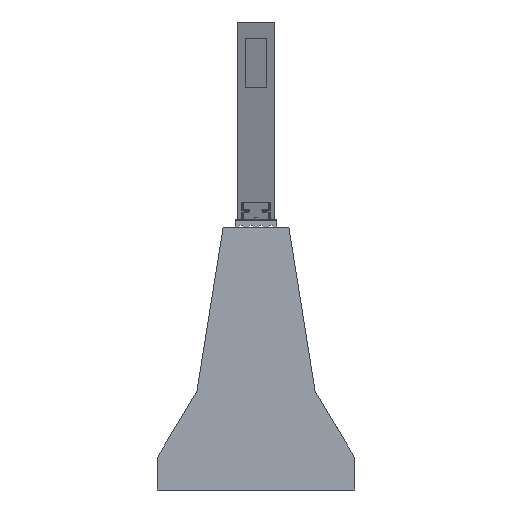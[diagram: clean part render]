
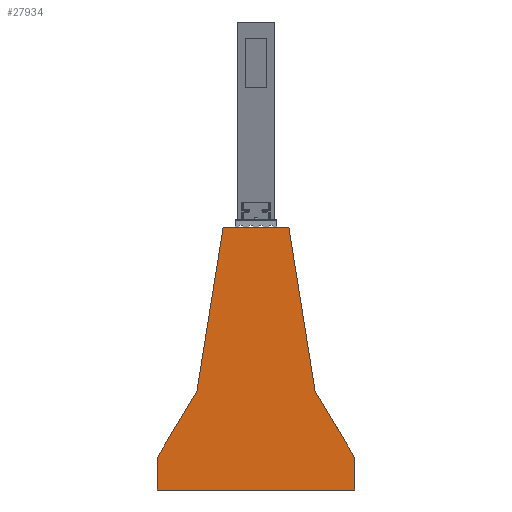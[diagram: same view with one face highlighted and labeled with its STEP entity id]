
A CAD part, left-side view. The second image highlights one B-rep face of the part: STEP entity #27934.
In plain terms, the highlighted planar face has unit normal (-1, 0, 0).
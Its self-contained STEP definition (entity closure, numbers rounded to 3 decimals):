
#27837 = VERTEX_POINT('',#27838);
#27838 = CARTESIAN_POINT('',(0.,-300.,0.));
#27855 = VERTEX_POINT('',#27856);
#27856 = CARTESIAN_POINT('',(0.,300.,0.));
#27862 = EDGE_CURVE('',#27837,#27855,#27863,.T.);
#27863 = LINE('',#27864,#27865);
#27864 = CARTESIAN_POINT('',(0.,-300.,0.));
#27865 = VECTOR('',#27866,1.);
#27866 = DIRECTION('',(0.,1.,0.));
#27877 = VERTEX_POINT('',#27878);
#27878 = CARTESIAN_POINT('',(0.,-300.,100.));
#27893 = EDGE_CURVE('',#27877,#27837,#27894,.T.);
#27894 = LINE('',#27895,#27896);
#27895 = CARTESIAN_POINT('',(0.,-300.,100.));
#27896 = VECTOR('',#27897,1.);
#27897 = DIRECTION('',(0.,0.,-1.));
#27917 = VERTEX_POINT('',#27918);
#27918 = CARTESIAN_POINT('',(0.,300.,100.));
#27924 = EDGE_CURVE('',#27855,#27917,#27925,.T.);
#27925 = LINE('',#27926,#27927);
#27926 = CARTESIAN_POINT('',(0.,300.,0.));
#27927 = VECTOR('',#27928,1.);
#27928 = DIRECTION('',(0.,0.,1.));
#27934 = ADVANCED_FACE('',(#27935),#27978,.F.);
#27935 = FACE_BOUND('',#27936,.F.);
#27936 = EDGE_LOOP('',(#27937,#27938,#27939,#27947,#27955,#27963,#27971,
    #27977));
#27937 = ORIENTED_EDGE('',*,*,#27862,.T.);
#27938 = ORIENTED_EDGE('',*,*,#27924,.T.);
#27939 = ORIENTED_EDGE('',*,*,#27940,.T.);
#27940 = EDGE_CURVE('',#27917,#27941,#27943,.T.);
#27941 = VERTEX_POINT('',#27942);
#27942 = CARTESIAN_POINT('',(0.,180.,300.));
#27943 = LINE('',#27944,#27945);
#27944 = CARTESIAN_POINT('',(0.,300.,100.));
#27945 = VECTOR('',#27946,1.);
#27946 = DIRECTION('',(0.,-0.514,0.857));
#27947 = ORIENTED_EDGE('',*,*,#27948,.T.);
#27948 = EDGE_CURVE('',#27941,#27949,#27951,.T.);
#27949 = VERTEX_POINT('',#27950);
#27950 = CARTESIAN_POINT('',(0.,100.,800.));
#27951 = LINE('',#27952,#27953);
#27952 = CARTESIAN_POINT('',(0.,180.,300.));
#27953 = VECTOR('',#27954,1.);
#27954 = DIRECTION('',(0.,-0.158,0.987));
#27955 = ORIENTED_EDGE('',*,*,#27956,.T.);
#27956 = EDGE_CURVE('',#27949,#27957,#27959,.T.);
#27957 = VERTEX_POINT('',#27958);
#27958 = CARTESIAN_POINT('',(0.,-100.,800.));
#27959 = LINE('',#27960,#27961);
#27960 = CARTESIAN_POINT('',(0.,100.,800.));
#27961 = VECTOR('',#27962,1.);
#27962 = DIRECTION('',(0.,-1.,0.));
#27963 = ORIENTED_EDGE('',*,*,#27964,.T.);
#27964 = EDGE_CURVE('',#27957,#27965,#27967,.T.);
#27965 = VERTEX_POINT('',#27966);
#27966 = CARTESIAN_POINT('',(0.,-180.,300.));
#27967 = LINE('',#27968,#27969);
#27968 = CARTESIAN_POINT('',(0.,-100.,800.));
#27969 = VECTOR('',#27970,1.);
#27970 = DIRECTION('',(0.,-0.158,-0.987));
#27971 = ORIENTED_EDGE('',*,*,#27972,.T.);
#27972 = EDGE_CURVE('',#27965,#27877,#27973,.T.);
#27973 = LINE('',#27974,#27975);
#27974 = CARTESIAN_POINT('',(0.,-180.,300.));
#27975 = VECTOR('',#27976,1.);
#27976 = DIRECTION('',(0.,-0.514,-0.857));
#27977 = ORIENTED_EDGE('',*,*,#27893,.T.);
#27978 = PLANE('',#27979);
#27979 = AXIS2_PLACEMENT_3D('',#27980,#27981,#27982);
#27980 = CARTESIAN_POINT('',(0.,0.,330.87));
#27981 = DIRECTION('',(1.,0.,0.));
#27982 = DIRECTION('',(-0.,0.,1.));
